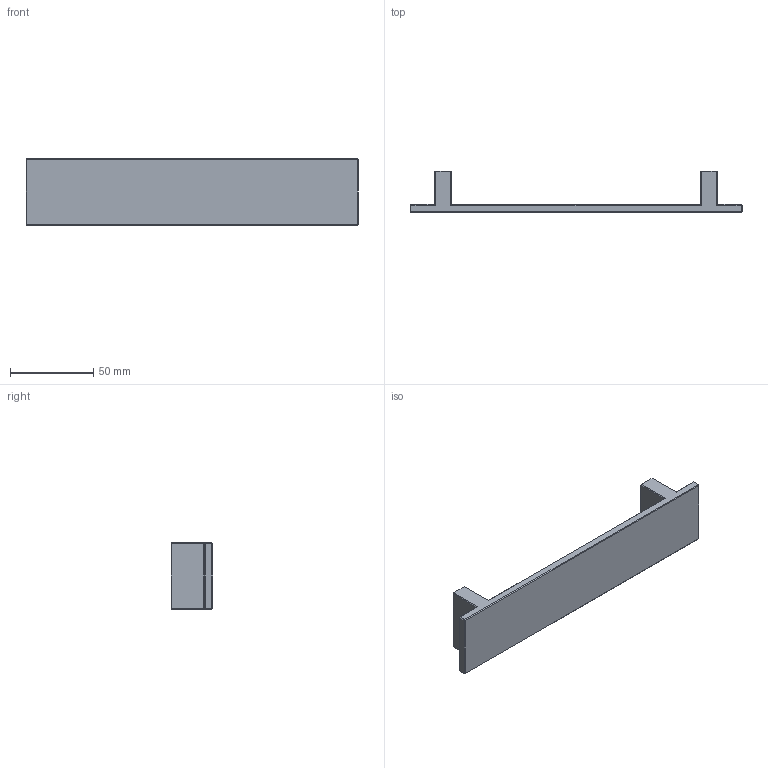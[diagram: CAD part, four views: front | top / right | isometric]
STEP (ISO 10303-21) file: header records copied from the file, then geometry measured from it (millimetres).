
FILE_DESCRIPTION( ( '' ), '1' );
FILE_NAME( 'C:/Documents and Settings/Sachin/Desktop/Sheet 10_1/stp/9118995.stp', '2013-10-22T06:44:20', ( '' ), ( '' ), ' ', ' ', ' ' );
FILE_SCHEMA( ( 'CONFIG_CONTROL_DESIGN' ) );
Length unit declared in the file: millimetre
Products named in the file (1): 1
Bounding box: 200 x 25 x 40 mm (x, y, z)
Volume: 55631.1 mm3; surface area: 22283.9 mm2
Topology: 1 solids, 1 shells, 56 faces, 140 edges, 88 vertices
Faces by surface type: plane 52, cylinder 4
Entity records: 1668 total; most frequent: CARTESIAN_POINT 285, ORIENTED_EDGE 280, DIRECTION 262, EDGE_CURVE 140, LINE 132, VECTOR 132, VERTEX_POINT 88, AXIS2_PLACEMENT_3D 65
